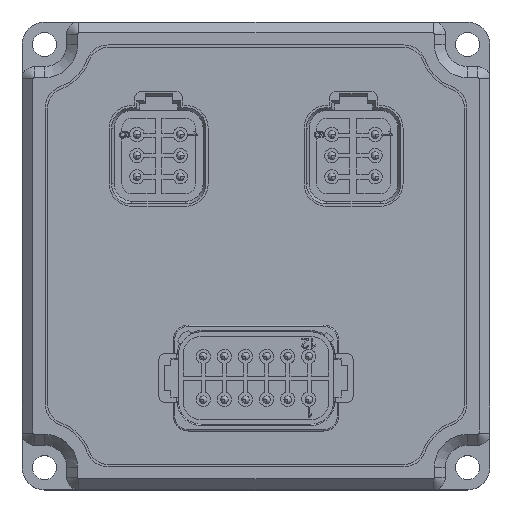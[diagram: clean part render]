
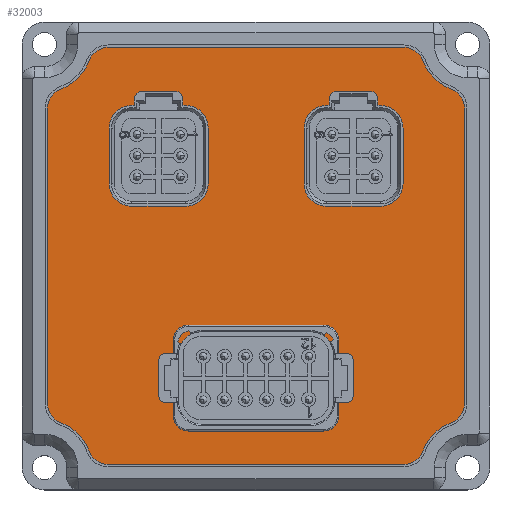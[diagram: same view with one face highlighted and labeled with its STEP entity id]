
A CAD part, top view. The second image highlights one B-rep face of the part: STEP entity #32003.
In plain terms, the highlighted planar face has unit normal (0, 0, 1).
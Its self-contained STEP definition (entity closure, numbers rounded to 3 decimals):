
#2559=CIRCLE('',#34465,10.025);
#2561=CIRCLE('',#34468,4.263);
#2563=CIRCLE('',#34472,4.263);
#2565=CIRCLE('',#34475,10.025);
#2567=CIRCLE('',#34478,4.263);
#2569=CIRCLE('',#34482,4.263);
#2571=CIRCLE('',#34485,10.025);
#2573=CIRCLE('',#34488,4.263);
#2575=CIRCLE('',#34492,4.263);
#2577=CIRCLE('',#34495,10.025);
#2579=CIRCLE('',#34498,4.263);
#2581=CIRCLE('',#34502,4.263);
#4730=FACE_OUTER_BOUND('',#6670,.T.);
#6670=EDGE_LOOP('',(#29350,#29351,#29352,#29353,#29354,#29355,#29356,#29357,
#29358,#29359,#29360,#29361,#29362,#29363,#29364,#29365));
#9504=LINE('',#77012,#12356);
#9510=LINE('',#77036,#12362);
#9516=LINE('',#77060,#12368);
#9522=LINE('',#77084,#12374);
#12356=VECTOR('',#42196,10.);
#12362=VECTOR('',#42222,10.);
#12368=VECTOR('',#42248,10.);
#12374=VECTOR('',#42274,10.);
#15408=VERTEX_POINT('',#76997);
#15409=VERTEX_POINT('',#76999);
#15411=VERTEX_POINT('',#77005);
#15413=VERTEX_POINT('',#77011);
#15415=VERTEX_POINT('',#77017);
#15417=VERTEX_POINT('',#77023);
#15419=VERTEX_POINT('',#77029);
#15421=VERTEX_POINT('',#77035);
#15423=VERTEX_POINT('',#77041);
#15425=VERTEX_POINT('',#77047);
#15427=VERTEX_POINT('',#77053);
#15429=VERTEX_POINT('',#77059);
#15431=VERTEX_POINT('',#77065);
#15433=VERTEX_POINT('',#77071);
#15435=VERTEX_POINT('',#77077);
#15437=VERTEX_POINT('',#77083);
#20040=EDGE_CURVE('',#15409,#15408,#2559,.T.);
#20043=EDGE_CURVE('',#15411,#15409,#2561,.T.);
#20046=EDGE_CURVE('',#15413,#15411,#9504,.T.);
#20049=EDGE_CURVE('',#15415,#15413,#2563,.T.);
#20052=EDGE_CURVE('',#15417,#15415,#2565,.T.);
#20055=EDGE_CURVE('',#15419,#15417,#2567,.T.);
#20058=EDGE_CURVE('',#15421,#15419,#9510,.T.);
#20061=EDGE_CURVE('',#15423,#15421,#2569,.T.);
#20064=EDGE_CURVE('',#15425,#15423,#2571,.T.);
#20067=EDGE_CURVE('',#15427,#15425,#2573,.T.);
#20070=EDGE_CURVE('',#15429,#15427,#9516,.T.);
#20073=EDGE_CURVE('',#15431,#15429,#2575,.T.);
#20076=EDGE_CURVE('',#15433,#15431,#2577,.T.);
#20079=EDGE_CURVE('',#15435,#15433,#2579,.T.);
#20082=EDGE_CURVE('',#15437,#15435,#9522,.T.);
#20085=EDGE_CURVE('',#15408,#15437,#2581,.T.);
#29350=ORIENTED_EDGE('',*,*,#20085,.T.);
#29351=ORIENTED_EDGE('',*,*,#20082,.T.);
#29352=ORIENTED_EDGE('',*,*,#20079,.T.);
#29353=ORIENTED_EDGE('',*,*,#20076,.T.);
#29354=ORIENTED_EDGE('',*,*,#20073,.T.);
#29355=ORIENTED_EDGE('',*,*,#20070,.T.);
#29356=ORIENTED_EDGE('',*,*,#20067,.T.);
#29357=ORIENTED_EDGE('',*,*,#20064,.T.);
#29358=ORIENTED_EDGE('',*,*,#20061,.T.);
#29359=ORIENTED_EDGE('',*,*,#20058,.T.);
#29360=ORIENTED_EDGE('',*,*,#20055,.T.);
#29361=ORIENTED_EDGE('',*,*,#20052,.T.);
#29362=ORIENTED_EDGE('',*,*,#20049,.T.);
#29363=ORIENTED_EDGE('',*,*,#20046,.T.);
#29364=ORIENTED_EDGE('',*,*,#20043,.T.);
#29365=ORIENTED_EDGE('',*,*,#20040,.T.);
#30246=PLANE('',#34503);
#32003=ADVANCED_FACE('',(#4730),#30246,.T.);
#34465=AXIS2_PLACEMENT_3D('',#77000,#42183,#42184);
#34468=AXIS2_PLACEMENT_3D('',#77006,#42190,#42191);
#34472=AXIS2_PLACEMENT_3D('',#77018,#42202,#42203);
#34475=AXIS2_PLACEMENT_3D('',#77024,#42209,#42210);
#34478=AXIS2_PLACEMENT_3D('',#77030,#42216,#42217);
#34482=AXIS2_PLACEMENT_3D('',#77042,#42228,#42229);
#34485=AXIS2_PLACEMENT_3D('',#77048,#42235,#42236);
#34488=AXIS2_PLACEMENT_3D('',#77054,#42242,#42243);
#34492=AXIS2_PLACEMENT_3D('',#77066,#42254,#42255);
#34495=AXIS2_PLACEMENT_3D('',#77072,#42261,#42262);
#34498=AXIS2_PLACEMENT_3D('',#77078,#42268,#42269);
#34502=AXIS2_PLACEMENT_3D('',#77088,#42280,#42281);
#34503=AXIS2_PLACEMENT_3D('',#77089,#42282,#42283);
#42183=DIRECTION('center_axis',(0.,0.,-1.));
#42184=DIRECTION('ref_axis',(-0.94,-0.342,0.));
#42190=DIRECTION('center_axis',(0.,0.,1.));
#42191=DIRECTION('ref_axis',(1.,0.,0.));
#42196=DIRECTION('',(0.,1.,0.));
#42202=DIRECTION('center_axis',(0.,0.,1.));
#42203=DIRECTION('ref_axis',(0.342,-0.94,0.));
#42209=DIRECTION('center_axis',(0.,0.,-1.));
#42210=DIRECTION('ref_axis',(-0.342,0.94,0.));
#42216=DIRECTION('center_axis',(0.,0.,1.));
#42217=DIRECTION('ref_axis',(0.,-1.,0.));
#42222=DIRECTION('',(1.,0.,0.));
#42228=DIRECTION('center_axis',(0.,0.,1.));
#42229=DIRECTION('ref_axis',(-0.94,-0.342,0.));
#42235=DIRECTION('center_axis',(0.,0.,-1.));
#42236=DIRECTION('ref_axis',(0.94,0.342,0.));
#42242=DIRECTION('center_axis',(0.,0.,1.));
#42243=DIRECTION('ref_axis',(-1.,0.,0.));
#42248=DIRECTION('',(0.,-1.,0.));
#42254=DIRECTION('center_axis',(0.,0.,1.));
#42255=DIRECTION('ref_axis',(-0.342,0.94,0.));
#42261=DIRECTION('center_axis',(0.,0.,-1.));
#42262=DIRECTION('ref_axis',(0.342,-0.94,0.));
#42268=DIRECTION('center_axis',(0.,0.,1.));
#42269=DIRECTION('ref_axis',(0.,1.,0.));
#42274=DIRECTION('',(-1.,0.,0.));
#42280=DIRECTION('center_axis',(0.,0.,1.));
#42281=DIRECTION('ref_axis',(0.94,0.342,0.));
#42282=DIRECTION('center_axis',(0.,0.,1.));
#42283=DIRECTION('ref_axis',(1.,0.,0.));
#76997=CARTESIAN_POINT('',(35.094,41.083,31.596));
#76999=CARTESIAN_POINT('',(41.083,35.094,31.596));
#77000=CARTESIAN_POINT('Origin',(44.514,44.514,31.596));
#77005=CARTESIAN_POINT('',(43.887,31.089,31.596));
#77006=CARTESIAN_POINT('Origin',(39.624,31.089,31.596));
#77011=CARTESIAN_POINT('',(43.887,-31.089,31.596));
#77012=CARTESIAN_POINT('',(43.887,-31.089,31.596));
#77017=CARTESIAN_POINT('',(41.083,-35.094,31.596));
#77018=CARTESIAN_POINT('Origin',(39.624,-31.089,31.596));
#77023=CARTESIAN_POINT('',(35.094,-41.083,31.596));
#77024=CARTESIAN_POINT('Origin',(44.514,-44.514,31.596));
#77029=CARTESIAN_POINT('',(31.089,-43.887,31.596));
#77030=CARTESIAN_POINT('Origin',(31.089,-39.624,31.596));
#77035=CARTESIAN_POINT('',(-31.089,-43.887,31.596));
#77036=CARTESIAN_POINT('',(-31.089,-43.887,31.596));
#77041=CARTESIAN_POINT('',(-35.094,-41.083,31.596));
#77042=CARTESIAN_POINT('Origin',(-31.089,-39.624,31.596));
#77047=CARTESIAN_POINT('',(-41.083,-35.094,31.596));
#77048=CARTESIAN_POINT('Origin',(-44.514,-44.514,31.596));
#77053=CARTESIAN_POINT('',(-43.887,-31.089,31.596));
#77054=CARTESIAN_POINT('Origin',(-39.624,-31.089,31.596));
#77059=CARTESIAN_POINT('',(-43.887,31.089,31.596));
#77060=CARTESIAN_POINT('',(-43.887,31.089,31.596));
#77065=CARTESIAN_POINT('',(-41.083,35.094,31.596));
#77066=CARTESIAN_POINT('Origin',(-39.624,31.089,31.596));
#77071=CARTESIAN_POINT('',(-35.094,41.083,31.596));
#77072=CARTESIAN_POINT('Origin',(-44.514,44.514,31.596));
#77077=CARTESIAN_POINT('',(-31.089,43.887,31.596));
#77078=CARTESIAN_POINT('Origin',(-31.089,39.624,31.596));
#77083=CARTESIAN_POINT('',(31.089,43.887,31.596));
#77084=CARTESIAN_POINT('',(31.089,43.887,31.596));
#77088=CARTESIAN_POINT('Origin',(31.089,39.624,31.596));
#77089=CARTESIAN_POINT('Origin',(0.,0.,31.596));
